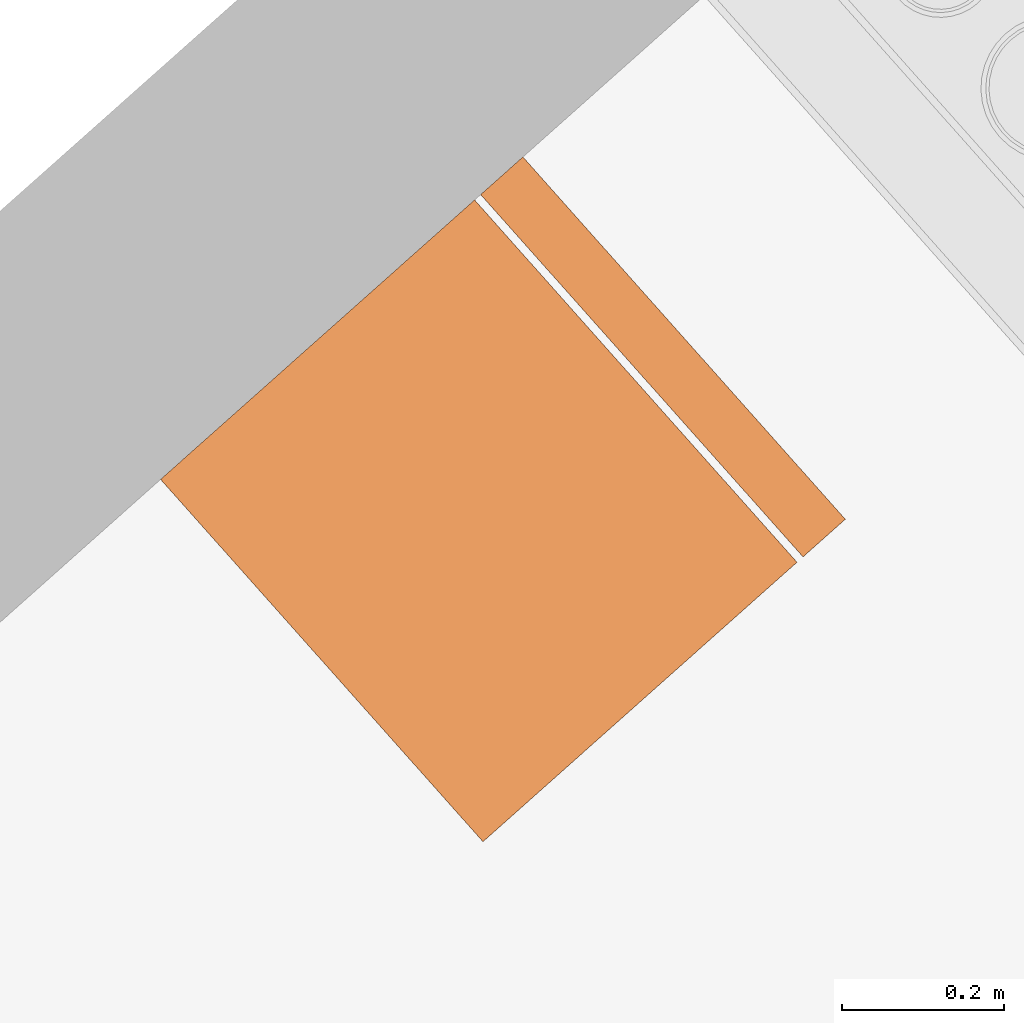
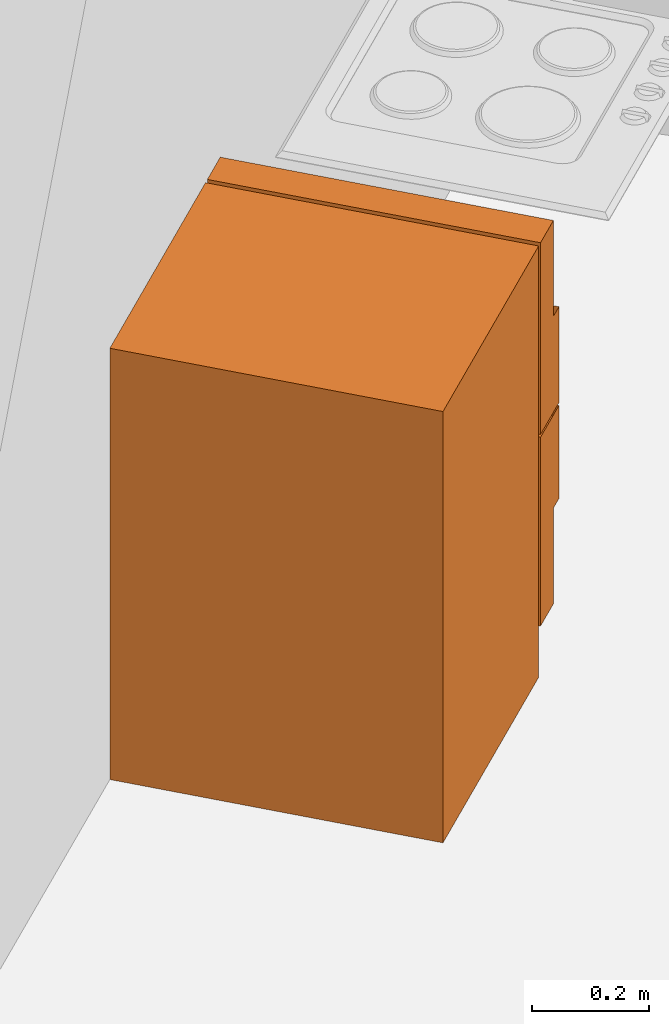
# One storey, part 113 of 121: 1 proxy.
"""IFC2X3 building model written with IfcOpenShell, lengths in metres."""

from ifc_helpers import new_model, entity, si_unit, converted_unit, derived_unit, money_unit, direction, frame, origin_with_axes, place, context, subcontext, project, spatial, open_shell, faceted_brep, surface_model, source, transform, mapped, type_object, element, save


model = new_model("IFC2X3")

# Units and contexts
model_context = context("Model", 3, precision=1e-05, world=origin_with_axes(), true_north=direction((0.0, 1.0)))
body_context = subcontext(model_context, "Body", "Model", "MODEL_VIEW")
ifc_project = project(units=[si_unit("LENGTHUNIT", "METRE"), si_unit("AREAUNIT", "SQUARE_METRE"), si_unit("VOLUMEUNIT", "CUBIC_METRE"), converted_unit("PLANEANGLEUNIT", "DEGREE", entity("IfcPlaneAngleMeasure", 0.0174532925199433), si_unit("PLANEANGLEUNIT", "RADIAN"), dimensions=[0, 0, 0, 0, 0, 0, 0]), money_unit("CHF"), converted_unit("TIMEUNIT", "Year", entity("IfcTimeMeasure", 31557600.0), si_unit("TIMEUNIT", "SECOND"), dimensions=[0, 0, 1, 0, 0, 0, 0]), si_unit("MASSUNIT", "GRAM", prefix="KILO"), si_unit("THERMODYNAMICTEMPERATUREUNIT", "DEGREE_CELSIUS"), si_unit("LUMINOUSINTENSITYUNIT", "LUMEN"), si_unit("ENERGYUNIT", "JOULE", prefix="MEGA"), derived_unit("THERMALCONDUCTANCEUNIT", [(si_unit("POWERUNIT", "WATT"), 1), (si_unit("LENGTHUNIT", "METRE"), -1), (si_unit("THERMODYNAMICTEMPERATUREUNIT", "KELVIN"), -1)]), derived_unit("SPECIFICHEATCAPACITYUNIT", [(si_unit("ENERGYUNIT", "JOULE"), 1), (si_unit("MASSUNIT", "GRAM", prefix="KILO"), -1), (si_unit("THERMODYNAMICTEMPERATUREUNIT", "KELVIN"), -1)]), derived_unit("MASSDENSITYUNIT", [(si_unit("MASSUNIT", "GRAM", prefix="KILO"), 1), (si_unit("VOLUMEUNIT", "CUBIC_METRE"), -1)])], contexts=[model_context])

# Site, building, storey
site_placement = place(None, origin_with_axes())
site = spatial("IfcSite", under=ifc_project, at=site_placement, Name="Site", CompositionType="ELEMENT")
building_placement = place(site_placement, origin_with_axes())
building = spatial("IfcBuilding", under=site, at=building_placement, Name="Bâtiment", CompositionType="ELEMENT")
storey_placement = place(building_placement, frame((0.0, 0.0, 2.75), z_axis=(0.0, 0.0, 1.0), x_axis=(1.0, 0.0, 0.0)))
storey = spatial("IfcBuildingStorey", under=building, at=storey_placement, Name="Etage 1", CompositionType="ELEMENT", Elevation=2.75)

# Proxy
building_element_proxy_type = type_object("IfcBuildingElementProxyType", PredefinedType="NOTDEFINED")
shared_shape = source(origin_with_axes(), body_context, "Body", "SurfaceModel", [
    faceted_brep([(0.0, 0.08, 0.1), (0.0, 0.08, 0.9), (-0.6, 0.08, 0.9), (-0.6, 0.08, 0.1), (0.0, 0.6, 0.1), (0.0, 0.6, 0.9), (-0.6, 0.6, 0.9), (-0.6, 0.6, 0.1)], [[[0, 1, 2, 3]], [[4, 5, 1, 0]], [[1, 5, 6, 2]], [[3, 2, 6, 7]], [[0, 3, 7, 4]], [[7, 6, 5, 4]]]),
    faceted_brep([(0.0, 0.08, 0.0), (0.0, 0.08, 0.1), (-0.6, 0.08, 0.1), (-0.6, 0.08, 0.0), (0.0, 0.6, 0.0), (0.0, 0.6, 0.1), (-0.6, 0.6, 0.1), (-0.6, 0.6, 0.0)], [[[0, 1, 2, 3]], [[4, 5, 1, 0]], [[1, 5, 6, 2]], [[3, 2, 6, 7]], [[0, 3, 7, 4]], [[7, 6, 5, 4]]]),
    faceted_brep([(0.0, 0.07, 0.1), (0.0, 0.0, 0.1), (-0.6, 0.0, 0.1), (-0.6, 0.07, 0.1), (0.0, 0.07000000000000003, 0.494), (0.0, 0.0, 0.494), (-0.6, 0.0, 0.494), (-0.6, 0.07000000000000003, 0.494)], [[[0, 1, 2, 3]], [[4, 5, 1, 0]], [[1, 5, 6, 2]], [[3, 2, 6, 7]], [[0, 3, 7, 4]], [[7, 6, 5, 4]]]),
    faceted_brep([(0.0, 0.07, 0.5), (0.0, 0.0, 0.5), (-0.6, 0.0, 0.5), (-0.6, 0.07, 0.5), (0.0, 0.07000000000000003, 0.9), (0.0, 0.0, 0.9), (-0.6, 0.0, 0.9), (-0.6, 0.07000000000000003, 0.9)], [[[0, 1, 2, 3]], [[4, 5, 1, 0]], [[1, 5, 6, 2]], [[3, 2, 6, 7]], [[0, 3, 7, 4]], [[7, 6, 5, 4]]]),
    surface_model("IfcShellBasedSurfaceModel", [(-0.6, -0.03, 0.3), (-0.6, 0.0, 0.3), (-0.6, 0.0, 0.4940000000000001), (-0.6, -0.03, 0.4940000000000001)], [open_shell([[[0, 1, 2, 3]]])]),
    surface_model("IfcShellBasedSurfaceModel", [(-0.6, -0.03, 0.3), (-0.57, -0.03, 0.3), (-0.57, -0.03, 0.4940000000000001), (-0.6, -0.03, 0.4940000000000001)], [open_shell([[[0, 1, 2, 3]]])]),
    surface_model("IfcShellBasedSurfaceModel", [(-0.6, -0.03, 0.5), (-0.6, 0.0, 0.5), (-0.6, 0.0, 0.7), (-0.6, -0.03, 0.7)], [open_shell([[[0, 1, 2, 3]]])]),
    surface_model("IfcShellBasedSurfaceModel", [(-0.6, -0.03, 0.5), (-0.57, -0.03, 0.5), (-0.57, -0.03, 0.7), (-0.6, -0.03, 0.7)], [open_shell([[[0, 1, 2, 3]]])]),
])
proxy_placement = place(storey_placement, frame((9514.757712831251, -1059.815505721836, 57.7), z_axis=(0.0, 0.0, 1.0), x_axis=(-0.6647881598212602, 0.747031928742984, 0.0)))
element("IfcBuildingElementProxy", 1, at=proxy_placement, inside=storey, type_object=building_element_proxy_type, Name="Obj.-019", context=body_context, shape_type="MappedRepresentation", body=[
    mapped(shared_shape, transform((0.0, 0.0, 0.0))),
])

save(model, "model.ifc")
